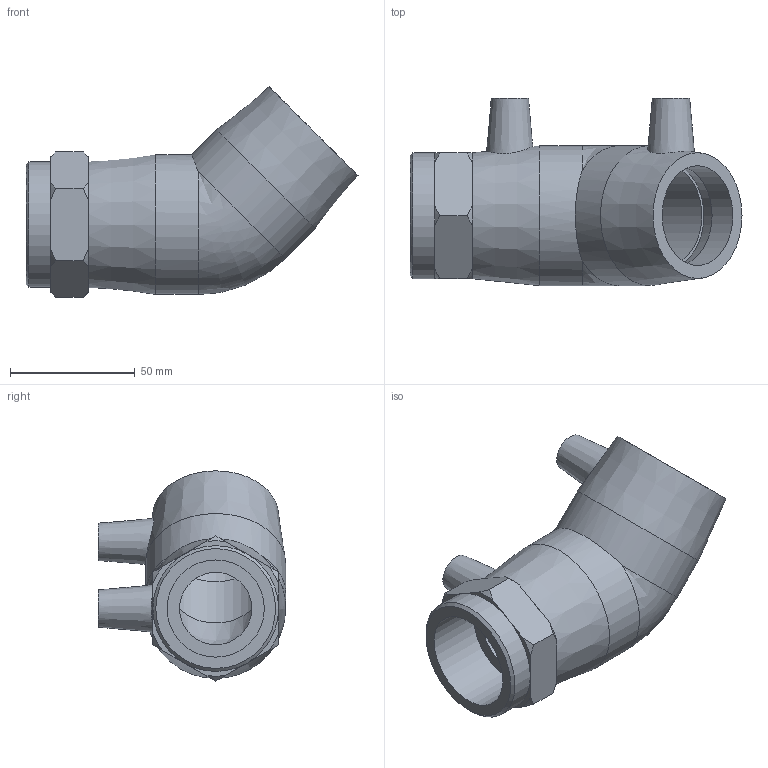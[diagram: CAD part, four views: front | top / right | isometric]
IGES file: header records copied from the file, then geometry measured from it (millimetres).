
Global section: file name: 493604040013.ipt; native system: Autodesk Inventor 2015; preprocessor: unknown; author: KIM; date: 20200202.122458; units: millimetre
Bounding box: 133 x 75 x 84.27 mm (x, y, z)
Volume: 176423.9 mm3; surface area: 45945.7 mm2
Topology: 1 solids, 2 shells, 61 faces, 150 edges, 100 vertices
Faces by surface type: plane 27, cone 17, revolution 9, cylinder 7, bspline 1
Full cylindrical faces by diameter (mm): 4 x2, 40 x2, 50.4 x1, 56 x2
